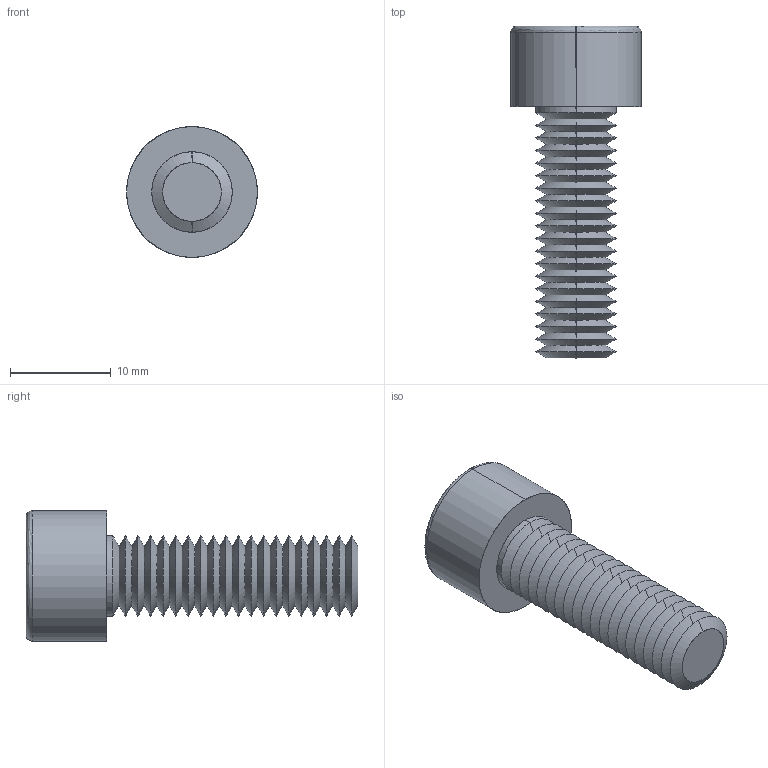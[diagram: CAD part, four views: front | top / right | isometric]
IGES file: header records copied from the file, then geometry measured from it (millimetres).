
Start section: SolidWorks IGES file using analytic representation for surfaces
Global section: file name: C:\Users\ianosborn\Desktop\N0007.91N_v2\N0007.91N_v2_20250519_IGES\91N.080.0250.igs; native system: SolidWorks 2019; preprocessor: SolidWorks 2019; author: IanOsborn; date: 250520.095412; units: millimetre
Bounding box: 13 x 33 x 13 mm (x, y, z)
Surface area: 1760.3 mm2 (no closed solid volume)
Topology: 0 solids, 0 shells, 108 faces, 629 edges, 627 vertices
Faces by surface type: revolution 91, bspline 17
